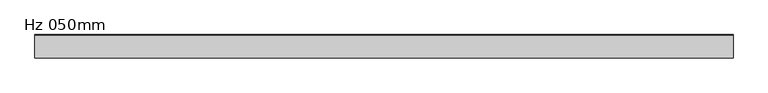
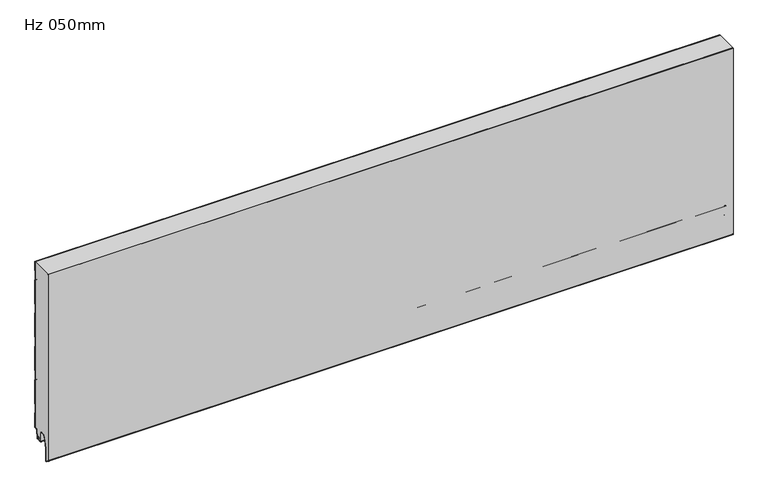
"""IFC4 building model written with IfcOpenShell, lengths in millimetres: plate geometry, KIP-MEX-KW-R19-CP-Hz-KW1_SL : Hz 050mm."""

from ifc_helpers import new_model, si_unit, point, frame, frame_2d, origin, place, context, project, spatial, polyline, circle_curve, trimmed, segment, composite_curve, outline, extrude, source, transform, mapped, element, save


def hz_050mm_50226ae4(model_context):
    return source(origin(), model_context, "Body", "SweptSolid", [
        extrude(outline(composite_curve([segment(polyline([(-1.1923863, 378.0794496), (-1.1923863, 359.0343601), (0.0055391, 357.9478358), (0.0055391, 303.0116636), (-1.1923863, 301.9265649), (-1.1923863, 282.8814753), (0.0055391, 281.794951), (0.0055391, 226.8587788), (-1.1923863, 225.7736801), (-1.1923863, 206.7285905), (0.0055391, 205.6420663), (0.0055391, 150.7058941), (-1.1923863, 149.6207954), (-1.1923863, 130.5757058), (0.0071129, 129.4891815), (0.0071129, 74.5544349), (-1.1923863, 73.4679106), (-1.1923863, 54.422821), (0.0, 53.3377223), (0.0, 21.7710722)]), True, "CONTINUOUS"), segment(trimmed(circle_curve(frame_2d((-1.4908763, 21.7710722)), 1.4908762), [point((0.0, 21.7710722))], [point((-1.4908763, 20.280196))], False, "CARTESIAN"), True, "CONTINUOUS"), segment(polyline([(-1.4908763, 20.280196), (-4.495104, 20.280196)]), True, "CONTINUOUS"), segment(trimmed(circle_curve(frame_2d((-4.495104, 18.2846098)), 1.9955862), [point((-4.495104, 20.280196))], [point((-6.4831424, 18.4580093))], True, "CARTESIAN"), True, "CONTINUOUS"), segment(polyline([(-6.4831424, 18.4580093), (-7.9041448, 2.1661016)]), True, "CONTINUOUS"), segment(trimmed(circle_curve(frame_2d((-10.3946892, 2.3833303)), 2.4999999), [point((-7.9041448, 2.1661016))], [point((-9.647721, -0.002469))], False, "CARTESIAN"), True, "CONTINUOUS"), segment(polyline([(-9.647721, -0.002469), (-11.9170147, -0.002469)]), True, "CONTINUOUS"), segment(trimmed(circle_curve(frame_2d((-11.1700464, 2.3833303)), 2.5), [point((-11.9170147, -0.002469))], [point((-13.6605331, 2.1654409))], False, "CARTESIAN"), True, "CONTINUOUS"), segment(polyline([(-13.6605331, 2.1654409), (-14.1669652, 7.9539868), (-13.1707705, 8.0411425), (-12.6643384, 2.2525966)]), True, "CONTINUOUS"), segment(trimmed(circle_curve(frame_2d((-11.1700464, 2.3833303)), 1.5), [point((-12.6643384, 2.2525966))], [point((-11.7441198, 0.997531))], True, "CARTESIAN"), True, "CONTINUOUS"), segment(polyline([(-11.7441198, 0.997531), (-9.8206159, 0.997531)]), True, "CONTINUOUS"), segment(trimmed(circle_curve(frame_2d((-10.3946892, 2.3833303)), 1.4999999), [point((-9.8206159, 0.997531))], [point((-8.9003365, 2.2532919))], True, "CARTESIAN"), True, "CONTINUOUS"), segment(polyline([(-8.9003365, 2.2532919), (-7.4823437, 18.5483373)]), True, "CONTINUOUS"), segment(trimmed(circle_curve(frame_2d((-4.4936383, 18.2882606)), 3.0), [point((-7.4823437, 18.5483373))], [point((-4.4936383, 21.2882606))], False, "CARTESIAN"), True, "CONTINUOUS"), segment(polyline([(-4.4936383, 21.2882606), (-0.9936383, 21.2882606), (-0.9936383, 52.8942781), (-2.1923863, 53.9793766), (-2.1923863, 73.911355), (-0.9928871, 74.9978793), (-0.9928871, 129.0457371), (-2.1923863, 130.1322614), (-2.1923863, 150.0642397), (-0.9928871, 151.150764), (-0.9928871, 205.1986219), (-2.1923863, 206.2851462), (-2.1923863, 226.2171245), (-0.9928871, 227.3036488), (-0.9928871, 281.3515066), (-2.1923863, 282.4380309), (-2.1923863, 302.3700093), (-0.9928871, 303.4565335), (-0.9928871, 357.5043914), (-2.1923863, 358.5909157), (-2.1923863, 378.522894), (-0.9928871, 379.6094183), (-0.9928871, 400.0520896), (0.0055391, 400.0520896), (0.0055391, 379.1645483), (-1.1923863, 378.0794496)]), True, "CONTINUOUS")], self_intersect=False)), frame((-740.0, 0.0, 0.0), z_axis=(1.0, 0.0, 0.0), x_axis=(0.0, 1.0, 0.0)), (0.0, 0.0, 1.0), 1480.0),
        extrude(outline(composite_curve([segment(polyline([(-14.168539, 7.9539868), (-13.6621069, 2.1654409)]), True, "CONTINUOUS"), segment(trimmed(circle_curve(frame_2d((-11.1716202, 2.3833303)), 2.5), [point((-13.6621069, 2.1654409))], [point((-11.9264293, 0.0))], True, "CARTESIAN"), True, "CONTINUOUS"), segment(polyline([(-11.9264293, 0.0), (-18.737817, 0.0)]), True, "CONTINUOUS"), segment(trimmed(circle_curve(frame_2d((-18.737817, 2.4986532)), 2.4986532), [point((-18.737817, 0.0))], [point((-16.2391638, 2.4986532))], True, "CARTESIAN"), True, "CONTINUOUS"), segment(polyline([(-16.2391638, 2.4986532), (-16.2391638, 6.9975309), (-17.2393619, 6.9975309), (-17.2393619, 2.4989009)]), True, "CONTINUOUS"), segment(trimmed(circle_curve(frame_2d((-18.737718, 2.4989009)), 1.4983561), [point((-17.2393619, 2.4989009))], [point((-18.737718, 1.0005448))], False, "CARTESIAN"), True, "CONTINUOUS"), segment(polyline([(-18.737718, 1.0005448), (-20.2871287, 1.0005448)]), True, "CONTINUOUS"), segment(trimmed(circle_curve(frame_2d((-20.2871287, 2.4946541)), 1.4941093), [point((-20.2871287, 1.0005448))], [point((-21.781238, 2.4946541))], False, "CARTESIAN"), True, "CONTINUOUS"), segment(polyline([(-21.781238, 2.4946541), (-21.781238, 21.0181667)]), True, "CONTINUOUS"), segment(trimmed(circle_curve(frame_2d((-24.8021238, 21.0181667)), 3.0208858), [point((-21.781238, 21.0181667))], [point((-24.8021238, 24.0390526))], True, "CARTESIAN"), True, "CONTINUOUS"), segment(polyline([(-24.8021238, 24.0390526), (-32.2693804, 24.0390526)]), True, "CONTINUOUS"), segment(trimmed(circle_curve(frame_2d((-32.2693804, 21.0499553)), 2.9890972), [point((-32.2693804, 24.0390526))], [point((-35.1423641, 21.8749809))], True, "CARTESIAN"), True, "CONTINUOUS"), segment(polyline([(-35.1423641, 21.8749809), (-42.2405983, -2.8431766), (-42.2405983, -31.2013392), (-48.9952121, -25.9234803), (-48.9952121, 400.0520896), (-0.9944609, 400.0520896), (-0.9944609, 379.6094183), (-2.1939601, 378.522894), (-2.1939601, 358.5909157), (-0.9944609, 357.5058172), (-0.9944609, 303.4565335), (-2.1939601, 302.3700093), (-2.1939601, 282.4380309), (-0.9944609, 281.3529324), (-0.9944609, 227.3036488), (-2.1939601, 226.2171245), (-2.1939601, 206.2851462), (-0.9944609, 205.2000477), (-0.9944609, 151.150764), (-2.1939601, 150.0642397), (-2.1939601, 130.1322614), (-0.9944609, 129.0471629), (-0.9944609, 74.9978793), (-2.1939601, 73.911355), (-2.1939601, 53.9793766), (-0.9952121, 52.8942781), (-0.9952121, 21.2882606), (-4.4952121, 21.2882606)]), True, "CONTINUOUS"), segment(trimmed(circle_curve(frame_2d((-4.4952121, 18.2882606)), 3.0), [point((-4.4952121, 21.2882606))], [point((-7.4839175, 18.5483373))], True, "CARTESIAN"), True, "CONTINUOUS"), segment(polyline([(-7.4839175, 18.5483373), (-8.9019103, 2.2532919)]), True, "CONTINUOUS"), segment(trimmed(circle_curve(frame_2d((-10.396263, 2.3833303)), 1.4999999), [point((-8.9019103, 2.2532919))], [point((-9.8221897, 0.997531))], False, "CARTESIAN"), True, "CONTINUOUS"), segment(polyline([(-9.8221897, 0.997531), (-11.7456936, 0.997531)]), True, "CONTINUOUS"), segment(trimmed(circle_curve(frame_2d((-11.1716202, 2.3833303)), 1.5), [point((-11.7456936, 0.997531))], [point((-12.6659122, 2.2525966))], False, "CARTESIAN"), True, "CONTINUOUS"), segment(polyline([(-12.6659122, 2.2525966), (-13.1723443, 8.0411425), (-14.168539, 7.9539868)]), True, "CONTINUOUS")], self_intersect=False)), frame((-740.0, 0.0, 0.0), z_axis=(1.0, 0.0, 0.0), x_axis=(0.0, 1.0, 0.0)), (0.0, 0.0, 1.0), 1480.0),
        extrude(outline(composite_curve([segment(polyline([(-49.9944609, -25.1919066), (-49.9944609, 400.0520896), (-48.9944609, 400.0520896), (-48.9944609, -25.9234803), (-42.2398472, -31.2013392), (-42.2398472, -2.8431766), (-35.1416127, 21.8749808)]), True, "CONTINUOUS"), segment(trimmed(circle_curve(frame_2d((-32.2686293, 21.0499553)), 2.9890972), [point((-35.1416127, 21.8749808))], [point((-32.2686293, 24.0390526))], False, "CARTESIAN"), True, "CONTINUOUS"), segment(polyline([(-32.2686293, 24.0390526), (-24.8013727, 24.0390526)]), True, "CONTINUOUS"), segment(trimmed(circle_curve(frame_2d((-24.8013727, 21.0181667)), 3.0208858), [point((-24.8013727, 24.0390526))], [point((-21.7804868, 21.0181667))], False, "CARTESIAN"), True, "CONTINUOUS"), segment(polyline([(-21.7804868, 21.0181667), (-21.7804868, 2.4946541)]), True, "CONTINUOUS"), segment(trimmed(circle_curve(frame_2d((-20.2863776, 2.4946541)), 1.4941093), [point((-21.7804868, 2.4946541))], [point((-20.2863776, 1.0005448))], True, "CARTESIAN"), True, "CONTINUOUS"), segment(polyline([(-20.2863776, 1.0005448), (-18.7369668, 1.0005448)]), True, "CONTINUOUS"), segment(trimmed(circle_curve(frame_2d((-18.7369668, 2.4989009)), 1.4983561), [point((-18.7369668, 1.0005448))], [point((-17.2386107, 2.4989009))], True, "CARTESIAN"), True, "CONTINUOUS"), segment(polyline([(-17.2386107, 2.4989009), (-17.2386107, 6.9975309), (-16.2384126, 6.9975309), (-16.2384126, 2.4986532)]), True, "CONTINUOUS"), segment(trimmed(circle_curve(frame_2d((-18.7370659, 2.4986532)), 2.4986532), [point((-16.2384126, 2.4986532))], [point((-18.7370659, 0.0))], False, "CARTESIAN"), True, "CONTINUOUS"), segment(polyline([(-18.7370659, 0.0), (-20.3087755, 0.0)]), True, "CONTINUOUS"), segment(trimmed(circle_curve(frame_2d((-20.2873377, 2.4950818)), 2.4951739), [point((-20.3087755, 0.0))], [point((-22.7825116, 2.4950818))], False, "CARTESIAN"), True, "CONTINUOUS"), segment(polyline([(-22.7825116, 2.4950818), (-22.7825116, 21.0262634)]), True, "CONTINUOUS"), segment(trimmed(circle_curve(frame_2d((-24.799282, 21.0262634)), 2.0167704), [point((-22.7825116, 21.0262634))], [point((-24.799282, 23.0430338))], True, "CARTESIAN"), True, "CONTINUOUS"), segment(polyline([(-24.799282, 23.0430338), (-32.2679288, 23.0430338)]), True, "CONTINUOUS"), segment(trimmed(circle_curve(frame_2d((-32.2679288, 21.0517509)), 1.9912829), [point((-32.2679288, 23.0430338))], [point((-34.1819009, 21.6012219))], True, "CARTESIAN"), True, "CONTINUOUS"), segment(polyline([(-34.1819009, 21.6012219), (-41.2398454, -2.9837112), (-41.2398454, -31.1745677)]), True, "CONTINUOUS"), segment(trimmed(circle_curve(frame_2d((-42.239487, -31.2013392)), 1.0), [point((-41.2398454, -31.1745677))], [point((-42.8551698, -31.9893333))], False, "CARTESIAN"), True, "CONTINUOUS"), segment(polyline([(-42.8551698, -31.9893333), (-49.033668, -27.1618918)]), True, "CONTINUOUS"), segment(trimmed(circle_curve(frame_2d((-47.4944609, -25.1919066)), 2.5), [point((-49.033668, -27.1618918))], [point((-49.9944609, -25.1919066))], False, "CARTESIAN"), True, "CONTINUOUS")], self_intersect=False)), frame((-740.0, 0.0, 0.0), z_axis=(1.0, 0.0, 0.0), x_axis=(0.0, 1.0, 0.0)), (0.0, 0.0, 1.0), 1480.0),
    ])


if __name__ == "__main__":
    model = new_model("IFC4")
    model_context = context("Model", 3, world=origin())
    ifc_project = project(units=[si_unit("LENGTHUNIT", "METRE", prefix="MILLI")], contexts=[model_context])
    site = spatial("IfcSite", under=ifc_project)
    building = spatial("IfcBuilding", under=site)
    placement = place(None, origin())
    hz_050mm_shape = hz_050mm_50226ae4(model_context)
    element("IfcPlate", 1, ObjectType="KIP-MEX-KW-R19-CP-Hz-KW1_SL : Hz 050mm", at=placement, inside=building, context=model_context, shape_type="MappedRepresentation", body=[
        mapped(hz_050mm_shape, transform((0.0, 0.0, 0.0), x_axis=(1.0, 0.0, 0.0), y_axis=(0.0, 1.0, 0.0), z_axis=(0.0, 0.0, 1.0))),
    ])
    save(model, "model.ifc")
